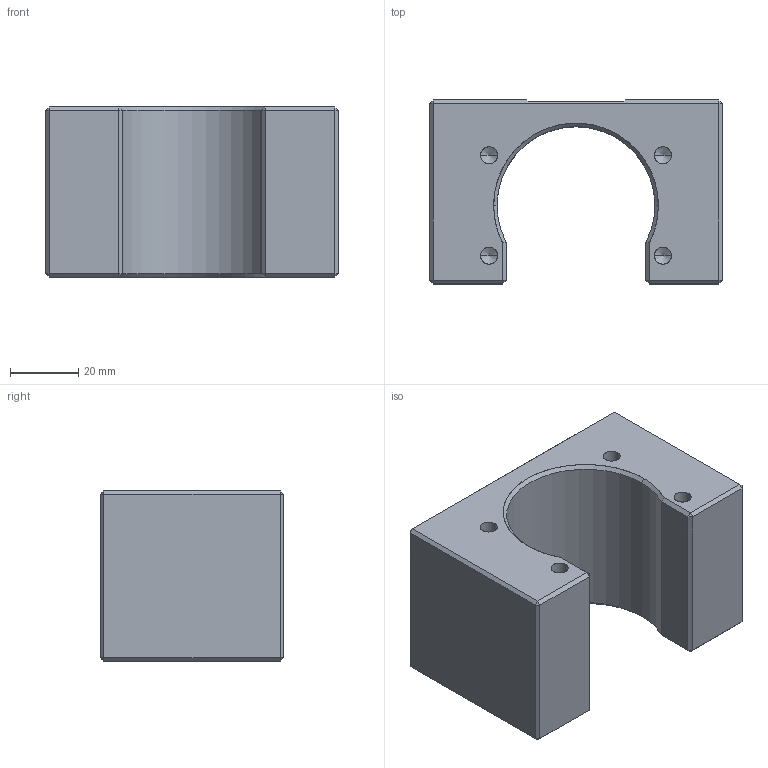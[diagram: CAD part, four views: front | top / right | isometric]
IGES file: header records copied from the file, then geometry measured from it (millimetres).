
Start section: SolidWorks IGES file using analytic representation for surfaces
Global section: file name: D:\目前進行中\MC系列螺帽座\MC2010\MC2010.IGS; native system: SolidWorks 2008; preprocessor: SolidWorks 2008; author: 070; date: 080609.110828; units: millimetre
Bounding box: 86 x 54 x 50 mm (x, y, z)
Surface area: 26629.5 mm2 (no closed solid volume)
Topology: 0 solids, 0 shells, 86 faces, 682 edges, 666 vertices
Faces by surface type: bspline 45, revolution 41
